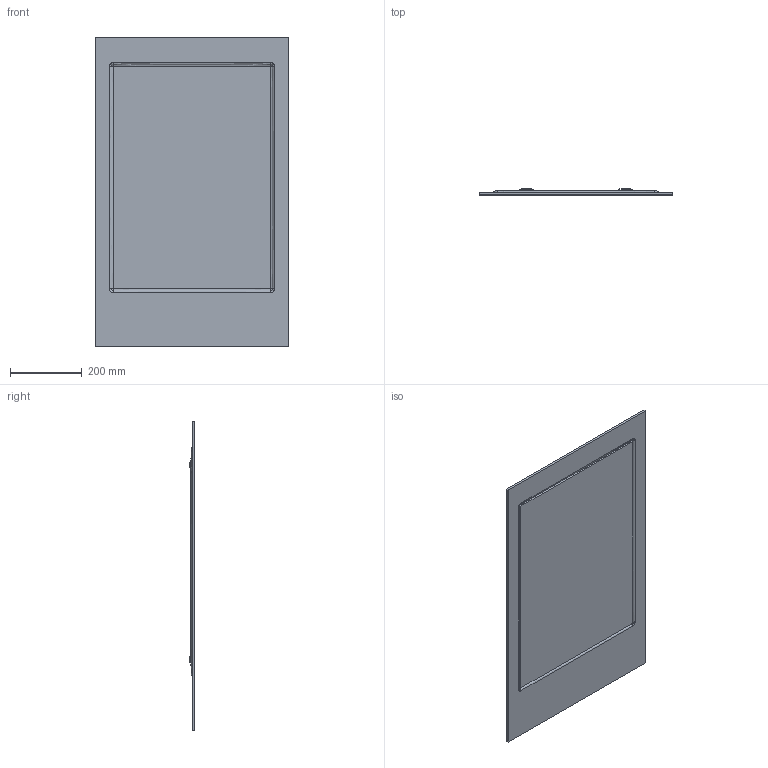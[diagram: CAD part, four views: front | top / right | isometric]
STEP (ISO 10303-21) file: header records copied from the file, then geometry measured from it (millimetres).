
FILE_DESCRIPTION(/* description */ (''),/* implementation_level */ '2;1');
FILE_NAME(/* name */ 'IST54_3D',/* time_stamp */ '2026-06-29T16:52:32+02:00',/* author */ (''),/* organization */ (''),/* preprocessor_version */ 'ST-DEVELOPER v16.5',/* originating_system */ '',/* authorisation */ '');
FILE_SCHEMA (('CONFIG_CONTROL_DESIGN'));
Length unit declared in the file: millimetre
Products named in the file (1): Document
Bounding box: 540 x 16.64 x 860 mm (x, y, z)
Volume: 4409956.3 mm3; surface area: 1967692.4 mm2
Topology: 7 solids, 7 shells, 100 faces, 253 edges, 161 vertices
Faces by surface type: plane 80, bspline 20
Entity records: 2900 total; most frequent: CARTESIAN_POINT 1114, ORIENTED_EDGE 488, EDGE_CURVE 244, B_SPLINE_CURVE_WITH_KNOTS 216, VERTEX_POINT 160, EDGE_LOOP 110, ADVANCED_FACE 100, FACE_OUTER_BOUND 100
